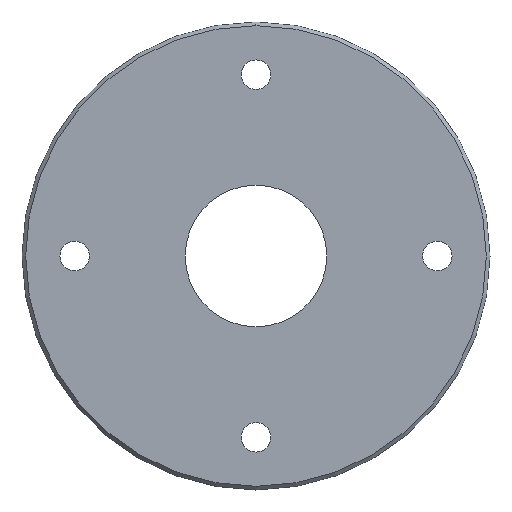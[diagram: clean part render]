
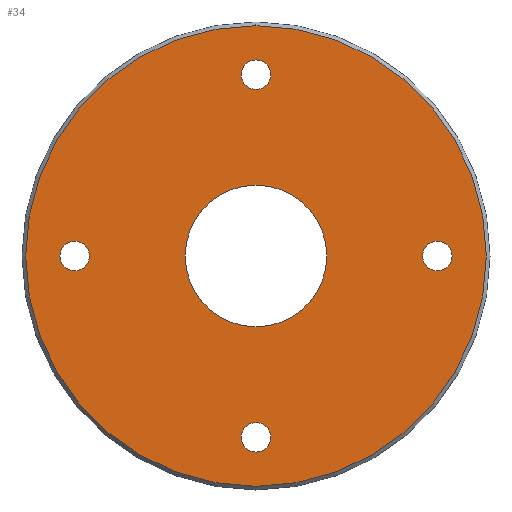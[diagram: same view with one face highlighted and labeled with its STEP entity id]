
A CAD part, left-side view. The second image highlights one B-rep face of the part: STEP entity #34.
In plain terms, the highlighted planar face has unit normal (-1, 0, 0).
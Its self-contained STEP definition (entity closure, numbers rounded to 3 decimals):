
#5 = CARTESIAN_POINT ( 'NONE',  ( 0., -49.2, 0. ) ) ;
#7 = DIRECTION ( 'NONE',  ( 0., 0., 1. ) ) ;
#14 = CIRCLE ( 'NONE', #379, 4. ) ;
#22 = EDGE_CURVE ( 'NONE', #131, #469, #326, .T. ) ;
#31 = ORIENTED_EDGE ( 'NONE', *, *, #514, .F. ) ;
#34 = ADVANCED_FACE ( 'NONE', ( #593, #107, #165, #300, #534, #37 ), #276, .F. ) ;
#37 = FACE_BOUND ( 'NONE', #440, .T. ) ;
#46 = ORIENTED_EDGE ( 'NONE', *, *, #273, .F. ) ;
#48 = DIRECTION ( 'NONE',  ( -1., 0., 0. ) ) ;
#50 = DIRECTION ( 'NONE',  ( 0., 0., -1. ) ) ;
#67 = CARTESIAN_POINT ( 'NONE',  ( 0., 0., 0. ) ) ;
#69 = ORIENTED_EDGE ( 'NONE', *, *, #22, .F. ) ;
#70 = EDGE_LOOP ( 'NONE', ( #395, #76 ) ) ;
#71 = ORIENTED_EDGE ( 'NONE', *, *, #490, .F. ) ;
#76 = ORIENTED_EDGE ( 'NONE', *, *, #185, .F. ) ;
#82 = VERTEX_POINT ( 'NONE', #256 ) ;
#84 = CARTESIAN_POINT ( 'NONE',  ( 0., 0., -45.2 ) ) ;
#104 = DIRECTION ( 'NONE',  ( 0., 0., 1. ) ) ;
#106 = VERTEX_POINT ( 'NONE', #200 ) ;
#107 = FACE_BOUND ( 'NONE', #223, .T. ) ;
#108 = DIRECTION ( 'NONE',  ( -1., 0., 0. ) ) ;
#112 = DIRECTION ( 'NONE',  ( 1., 0., 0. ) ) ;
#114 = CARTESIAN_POINT ( 'NONE',  ( 0., 0., 49.2 ) ) ;
#126 = ORIENTED_EDGE ( 'NONE', *, *, #556, .F. ) ;
#127 = DIRECTION ( 'NONE',  ( -1., 0., 0. ) ) ;
#131 = VERTEX_POINT ( 'NONE', #84 ) ;
#135 = CARTESIAN_POINT ( 'NONE',  ( 0., 49.2, 4. ) ) ;
#142 = CARTESIAN_POINT ( 'NONE',  ( 0., 0., 53.2 ) ) ;
#143 = CARTESIAN_POINT ( 'NONE',  ( 0., 0., -53.2 ) ) ;
#148 = EDGE_CURVE ( 'NONE', #329, #483, #167, .T. ) ;
#153 = AXIS2_PLACEMENT_3D ( 'NONE', #169, #591, #321 ) ;
#156 = CIRCLE ( 'NONE', #176, 4. ) ;
#165 = FACE_BOUND ( 'NONE', #170, .T. ) ;
#167 = CIRCLE ( 'NONE', #361, 62.5 ) ;
#168 = DIRECTION ( 'NONE',  ( 0., 0., 1. ) ) ;
#169 = CARTESIAN_POINT ( 'NONE',  ( 0., 62.5, 0. ) ) ;
#170 = EDGE_LOOP ( 'NONE', ( #69, #126 ) ) ;
#173 = CIRCLE ( 'NONE', #523, 19.2 ) ;
#176 = AXIS2_PLACEMENT_3D ( 'NONE', #5, #503, #536 ) ;
#177 = VERTEX_POINT ( 'NONE', #135 ) ;
#182 = CARTESIAN_POINT ( 'NONE',  ( 0., 0., 62.5 ) ) ;
#185 = EDGE_CURVE ( 'NONE', #277, #82, #464, .T. ) ;
#195 = AXIS2_PLACEMENT_3D ( 'NONE', #475, #560, #168 ) ;
#199 = CARTESIAN_POINT ( 'NONE',  ( 0., 0., 0. ) ) ;
#200 = CARTESIAN_POINT ( 'NONE',  ( 0., 0., -19.2 ) ) ;
#210 = DIRECTION ( 'NONE',  ( 0., 0., -1. ) ) ;
#220 = AXIS2_PLACEMENT_3D ( 'NONE', #260, #222, #304 ) ;
#222 = DIRECTION ( 'NONE',  ( -1., 0., 0. ) ) ;
#223 = EDGE_LOOP ( 'NONE', ( #46, #508 ) ) ;
#227 = VERTEX_POINT ( 'NONE', #142 ) ;
#229 = AXIS2_PLACEMENT_3D ( 'NONE', #261, #48, #422 ) ;
#234 = AXIS2_PLACEMENT_3D ( 'NONE', #67, #112, #210 ) ;
#237 = VERTEX_POINT ( 'NONE', #533 ) ;
#238 = DIRECTION ( 'NONE',  ( -1., 0., 0. ) ) ;
#243 = AXIS2_PLACEMENT_3D ( 'NONE', #383, #528, #7 ) ;
#244 = DIRECTION ( 'NONE',  ( 0., 0., 1. ) ) ;
#246 = ORIENTED_EDGE ( 'NONE', *, *, #148, .F. ) ;
#247 = CARTESIAN_POINT ( 'NONE',  ( 0., 49.2, 0. ) ) ;
#252 = CIRCLE ( 'NONE', #234, 62.5 ) ;
#256 = CARTESIAN_POINT ( 'NONE',  ( 0., -49.2, 4. ) ) ;
#260 = CARTESIAN_POINT ( 'NONE',  ( 0., 0., 49.2 ) ) ;
#261 = CARTESIAN_POINT ( 'NONE',  ( 0., 0., -49.2 ) ) ;
#265 = EDGE_CURVE ( 'NONE', #270, #177, #549, .T. ) ;
#270 = VERTEX_POINT ( 'NONE', #292 ) ;
#273 = EDGE_CURVE ( 'NONE', #482, #106, #173, .T. ) ;
#276 = PLANE ( 'NONE',  #153 ) ;
#277 = VERTEX_POINT ( 'NONE', #519 ) ;
#283 = ORIENTED_EDGE ( 'NONE', *, *, #605, .F. ) ;
#287 = ORIENTED_EDGE ( 'NONE', *, *, #589, .F. ) ;
#292 = CARTESIAN_POINT ( 'NONE',  ( 0., 49.2, -4. ) ) ;
#300 = FACE_BOUND ( 'NONE', #70, .T. ) ;
#304 = DIRECTION ( 'NONE',  ( 0., 0., 1. ) ) ;
#312 = CARTESIAN_POINT ( 'NONE',  ( 0., 0., -62.5 ) ) ;
#321 = DIRECTION ( 'NONE',  ( 0., 0., -1. ) ) ;
#324 = AXIS2_PLACEMENT_3D ( 'NONE', #247, #127, #244 ) ;
#326 = CIRCLE ( 'NONE', #229, 4. ) ;
#329 = VERTEX_POINT ( 'NONE', #182 ) ;
#330 = EDGE_CURVE ( 'NONE', #106, #482, #367, .T. ) ;
#351 = DIRECTION ( 'NONE',  ( 0., 0., 1. ) ) ;
#353 = CARTESIAN_POINT ( 'NONE',  ( 0., 0., 19.2 ) ) ;
#361 = AXIS2_PLACEMENT_3D ( 'NONE', #561, #601, #50 ) ;
#367 = CIRCLE ( 'NONE', #404, 19.2 ) ;
#379 = AXIS2_PLACEMENT_3D ( 'NONE', #114, #108, #104 ) ;
#383 = CARTESIAN_POINT ( 'NONE',  ( 0., -49.2, 0. ) ) ;
#391 = CIRCLE ( 'NONE', #220, 4. ) ;
#395 = ORIENTED_EDGE ( 'NONE', *, *, #547, .F. ) ;
#404 = AXIS2_PLACEMENT_3D ( 'NONE', #577, #238, #513 ) ;
#422 = DIRECTION ( 'NONE',  ( 0., 0., 1. ) ) ;
#424 = CIRCLE ( 'NONE', #487, 4. ) ;
#440 = EDGE_LOOP ( 'NONE', ( #283, #453 ) ) ;
#453 = ORIENTED_EDGE ( 'NONE', *, *, #265, .F. ) ;
#464 = CIRCLE ( 'NONE', #243, 4. ) ;
#469 = VERTEX_POINT ( 'NONE', #143 ) ;
#475 = CARTESIAN_POINT ( 'NONE',  ( 0., 49.2, 0. ) ) ;
#482 = VERTEX_POINT ( 'NONE', #353 ) ;
#483 = VERTEX_POINT ( 'NONE', #312 ) ;
#486 = DIRECTION ( 'NONE',  ( -1., 0., 0. ) ) ;
#487 = AXIS2_PLACEMENT_3D ( 'NONE', #543, #545, #574 ) ;
#490 = EDGE_CURVE ( 'NONE', #227, #237, #391, .T. ) ;
#503 = DIRECTION ( 'NONE',  ( -1., 0., 0. ) ) ;
#508 = ORIENTED_EDGE ( 'NONE', *, *, #330, .F. ) ;
#513 = DIRECTION ( 'NONE',  ( 0., 0., 1. ) ) ;
#514 = EDGE_CURVE ( 'NONE', #237, #227, #14, .T. ) ;
#519 = CARTESIAN_POINT ( 'NONE',  ( 0., -49.2, -4. ) ) ;
#523 = AXIS2_PLACEMENT_3D ( 'NONE', #199, #486, #351 ) ;
#528 = DIRECTION ( 'NONE',  ( -1., 0., 0. ) ) ;
#533 = CARTESIAN_POINT ( 'NONE',  ( 0., 0., 45.2 ) ) ;
#534 = FACE_BOUND ( 'NONE', #592, .T. ) ;
#536 = DIRECTION ( 'NONE',  ( 0., 0., 1. ) ) ;
#539 = CIRCLE ( 'NONE', #195, 4. ) ;
#543 = CARTESIAN_POINT ( 'NONE',  ( 0., 0., -49.2 ) ) ;
#545 = DIRECTION ( 'NONE',  ( -1., 0., 0. ) ) ;
#547 = EDGE_CURVE ( 'NONE', #82, #277, #156, .T. ) ;
#549 = CIRCLE ( 'NONE', #324, 4. ) ;
#556 = EDGE_CURVE ( 'NONE', #469, #131, #424, .T. ) ;
#560 = DIRECTION ( 'NONE',  ( -1., 0., 0. ) ) ;
#561 = CARTESIAN_POINT ( 'NONE',  ( 0., 0., 0. ) ) ;
#565 = EDGE_LOOP ( 'NONE', ( #287, #246 ) ) ;
#574 = DIRECTION ( 'NONE',  ( 0., 0., 1. ) ) ;
#577 = CARTESIAN_POINT ( 'NONE',  ( 0., 0., 0. ) ) ;
#589 = EDGE_CURVE ( 'NONE', #483, #329, #252, .T. ) ;
#591 = DIRECTION ( 'NONE',  ( 1., 0., 0. ) ) ;
#592 = EDGE_LOOP ( 'NONE', ( #71, #31 ) ) ;
#593 = FACE_OUTER_BOUND ( 'NONE', #565, .T. ) ;
#601 = DIRECTION ( 'NONE',  ( 1., 0., 0. ) ) ;
#605 = EDGE_CURVE ( 'NONE', #177, #270, #539, .T. ) ;
